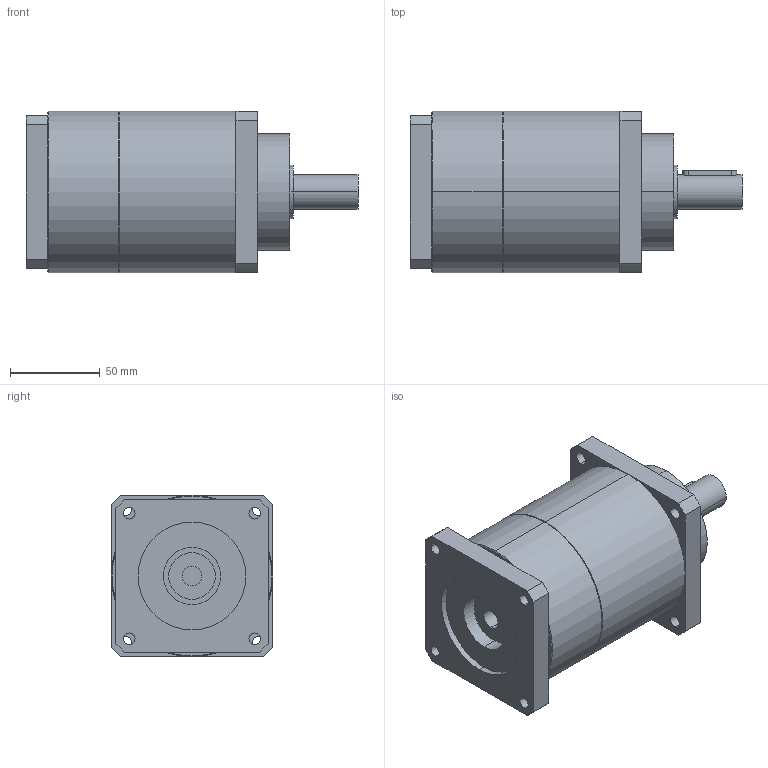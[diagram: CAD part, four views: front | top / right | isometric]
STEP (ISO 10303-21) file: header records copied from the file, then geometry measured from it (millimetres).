
FILE_DESCRIPTION(('CoCreate Modeling STEP Export'),'2;1');
FILE_NAME('GPT90_ig-9-12-16-20-25-28-35-40-50-70-100_19_B5T_11_P36.stp','2015-02-04T11:24:48',(''),(''),'CoCreate Modeling STEP processor for AP214 (Solid Model)','CoCreate Modeling 16.00C 25-Feb-2009 (C) Parametric Technology GmbH','');
FILE_SCHEMA(('AUTOMOTIVE_DESIGN { 1 0 10303 214 1 1 1 1 }'));
Length unit declared in the file: millimetre
Products named in the file (2): GPT90_ig-9-12-16-20-25-28-35-40-50-70-100_19_B5T_11_P36
Assembly tree (1 placements, depth 2):
  GPT90_ig-9-12-16-20-25-28-35-40-50-70-100_19_B5T_11_P36
    GPT90_ig-9-12-16-20-25-28-35-40-50-70-100_19_B5T_11_P36
Bounding box: 185 x 90 x 90 mm (x, y, z)
Volume: 900010.9 mm3; surface area: 67133.3 mm2
Topology: 1 solids, 1 shells, 84 faces, 225 edges, 152 vertices
Faces by surface type: cylinder 42, plane 38, cone 4
Entity records: 2707 total; most frequent: CARTESIAN_POINT 758, ORIENTED_EDGE 450, DIRECTION 322, EDGE_CURVE 225, VERTEX_POINT 152, AXIS2_PLACEMENT_3D 113, EDGE_LOOP 109, VECTOR 96
